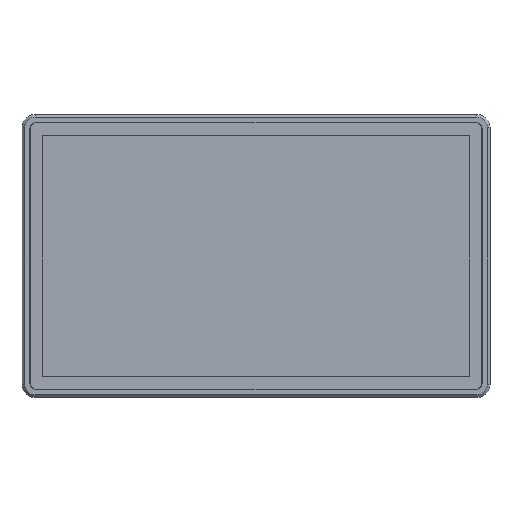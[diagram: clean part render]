
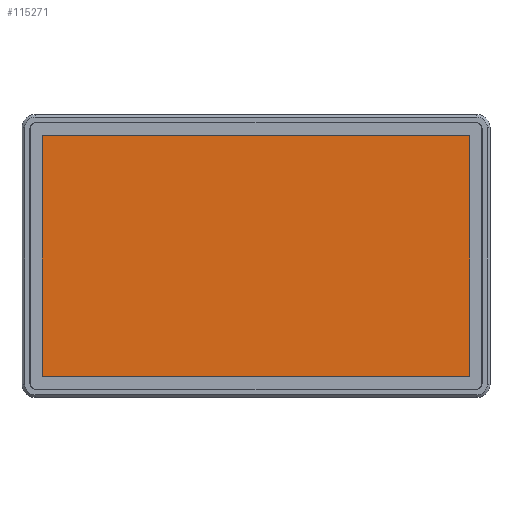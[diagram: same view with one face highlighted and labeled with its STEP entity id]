
A CAD part, top view. The second image highlights one B-rep face of the part: STEP entity #115271.
In plain terms, the highlighted planar face has unit normal (0, 0, 1).
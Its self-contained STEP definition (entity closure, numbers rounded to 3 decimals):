
#13601=PLANE('',#123280);
#18027=FACE_OUTER_BOUND('',#24947,.T.);
#24947=EDGE_LOOP('',(#93118,#93119,#93120,#93121));
#33819=LINE('',#185578,#42816);
#33820=LINE('',#185580,#42817);
#33821=LINE('',#185582,#42818);
#33822=LINE('',#185583,#42819);
#42816=VECTOR('',#141992,10.);
#42817=VECTOR('',#141993,10.);
#42818=VECTOR('',#141994,10.);
#42819=VECTOR('',#141995,10.);
#55705=VERTEX_POINT('',#185576);
#55706=VERTEX_POINT('',#185577);
#55707=VERTEX_POINT('',#185579);
#55708=VERTEX_POINT('',#185581);
#69009=EDGE_CURVE('',#55705,#55706,#33819,.T.);
#69010=EDGE_CURVE('',#55707,#55706,#33820,.T.);
#69011=EDGE_CURVE('',#55708,#55707,#33821,.T.);
#69012=EDGE_CURVE('',#55705,#55708,#33822,.T.);
#93118=ORIENTED_EDGE('',*,*,#69012,.T.);
#93119=ORIENTED_EDGE('',*,*,#69011,.T.);
#93120=ORIENTED_EDGE('',*,*,#69010,.T.);
#93121=ORIENTED_EDGE('',*,*,#69009,.F.);
#115271=ADVANCED_FACE('',(#18027),#13601,.T.);
#123280=AXIS2_PLACEMENT_3D('',#185598,#142013,#142014);
#141992=DIRECTION('',(-1.,0.,0.));
#141993=DIRECTION('',(0.,-1.,0.));
#141994=DIRECTION('',(-1.,0.,0.));
#141995=DIRECTION('',(0.,1.,0.));
#142013=DIRECTION('center_axis',(0.,0.,
1.));
#142014=DIRECTION('ref_axis',(-1.,0.,0.));
#185576=CARTESIAN_POINT('',(470.6,-264.71,5.1));
#185577=CARTESIAN_POINT('',(-470.6,-264.71,5.1));
#185578=CARTESIAN_POINT('',(470.6,-264.71,5.1));
#185579=CARTESIAN_POINT('',(-470.6,264.71,5.1));
#185580=CARTESIAN_POINT('',(-470.6,-132.355,5.1));
#185581=CARTESIAN_POINT('',(470.6,264.71,5.1));
#185582=CARTESIAN_POINT('',(-235.3,264.71,5.1));
#185583=CARTESIAN_POINT('',(470.6,132.355,5.1));
#185598=CARTESIAN_POINT('Origin',(0.,0.,
5.1));
